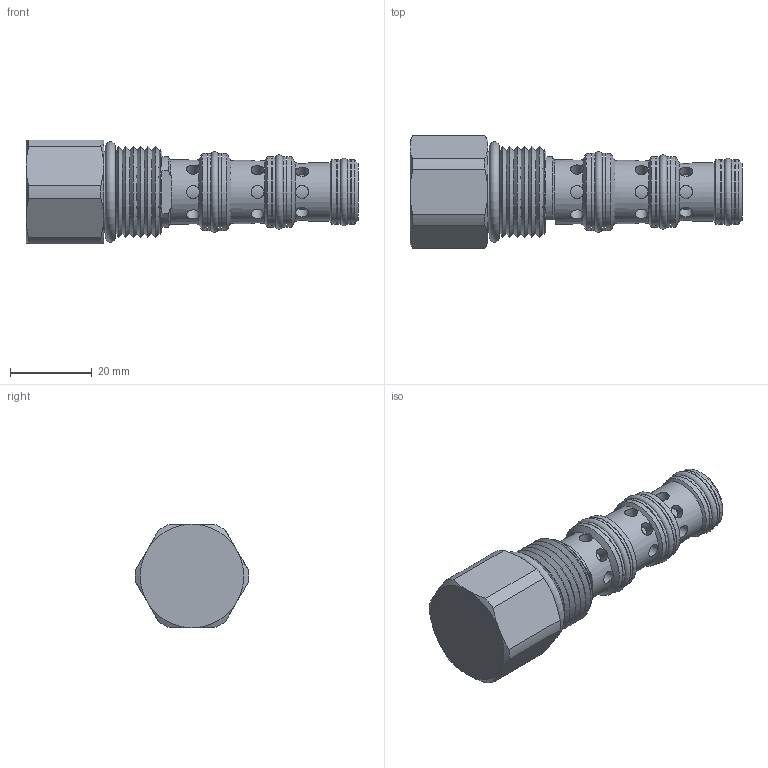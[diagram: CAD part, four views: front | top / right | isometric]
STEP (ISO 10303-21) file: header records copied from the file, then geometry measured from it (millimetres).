
FILE_DESCRIPTION(/* description */ (''),/* implementation_level */ '2;1');
FILE_NAME(/* name */ 'Q:\Delta CADD Insertion Codes\3D Solid models\Mechanical Valves\STEP\HGPDI00.stp',/* time_stamp */ '2016-12-08T13:40:17-06:00',/* author */ ('dan'),/* organization */ (''),/* preprocessor_version */ 'ST-DEVELOPER v16.1',/* originating_system */ 'Autodesk Inventor 2016',/* authorisation */ '');
FILE_SCHEMA (('AUTOMOTIVE_DESIGN { 1 0 10303 214 3 1 1 }'));
Length unit declared in the file: inch
Products named in the file (1): HGPDI00
Bounding box: 81.46 x 27.74 x 25.4 mm (x, y, z)
Volume: 24960 mm3; surface area: 10489.3 mm2
Topology: 11 solids, 11 shells, 179 faces, 364 edges, 224 vertices
Faces by surface type: cylinder 85, plane 45, cone 41, torus 8
Full cylindrical faces by diameter (mm): 1.016 x1, 2.388 x1, 3.175 x24, 9.52 x1, 9.53 x1, 12.992 x1, 13.043 x2, 14.275 x1, 14.592 x1, 14.63 x2, 15.469 x1, 15.723 x2, 15.735 x2, 15.875 x1, 16.167 x1, 16.218 x2, 17.323 x4, 18.898 x2, 18.91 x2, 19.621 x1
Entity records: 5709 total; most frequent: CARTESIAN_POINT 2469, DIRECTION 658, ORIENTED_EDGE 528, AXIS2_PLACEMENT_3D 311, EDGE_LOOP 297, EDGE_CURVE 264, VERTEX_POINT 205, FACE_OUTER_BOUND 179
